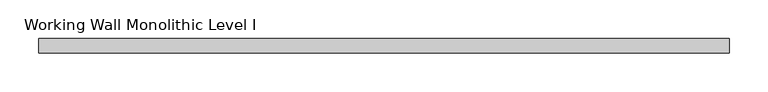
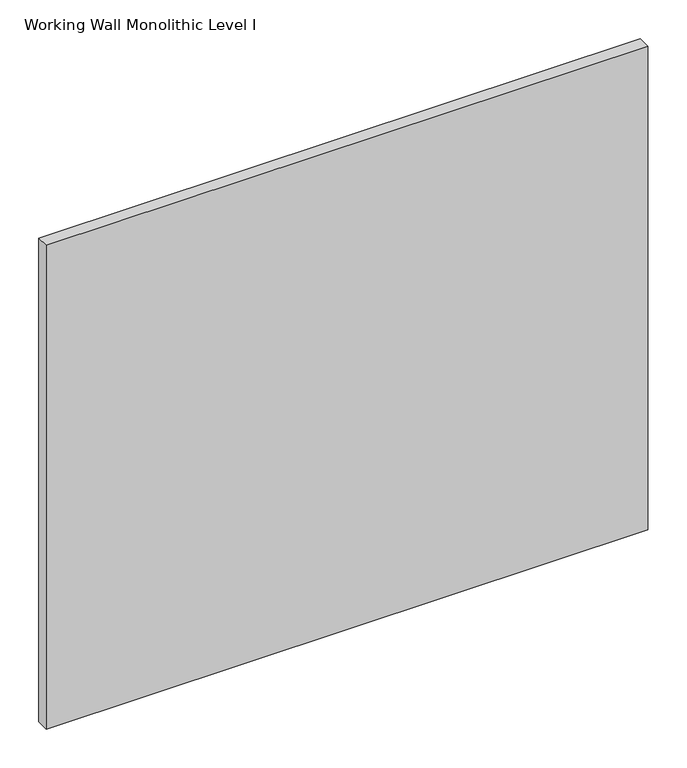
"""IFC4 building model written with IfcOpenShell, lengths in millimetres: proxy geometry, Panel-Fascia-Teknion-Altos : Working Wall Monolithic Level I."""

from ifc_helpers import new_model, si_unit, frame, origin, place, context, project, spatial, polyline, outline, extrude, source, transform, mapped, element, save


def working_wall_monolithic_level_i_40b02bc1(model_context):
    return source(origin(), model_context, "Body", "SweptSolid", [
        extrude(outline(polyline([(447.0356344, 9.525), (447.0356344, -9.525), (-447.0356344, -9.525), (-447.0356344, 9.525), (447.0356344, 9.525)])), frame((0.0, 0.0, 3.175), z_axis=(0.0, 0.0, 1.0), x_axis=(1.0, 0.0, 0.0)), (0.0, 0.0, 1.0), 759.968),
    ])


if __name__ == "__main__":
    model = new_model("IFC4")
    model_context = context("Model", 3, world=origin())
    ifc_project = project(units=[si_unit("LENGTHUNIT", "METRE", prefix="MILLI")], contexts=[model_context])
    site = spatial("IfcSite", under=ifc_project)
    building = spatial("IfcBuilding", under=site)
    placement = place(None, origin())
    working_wall_monolithic_level_i_shape = working_wall_monolithic_level_i_40b02bc1(model_context)
    element("IfcBuildingElementProxy", 1, Name="Panel-Fascia-Teknion-Altos : Working Wall Monolithic Level I", ObjectType="Panel-Fascia-Teknion-Altos : Working Wall Monolithic Level I", at=placement, inside=building, context=model_context, shape_type="MappedRepresentation", body=[
        mapped(working_wall_monolithic_level_i_shape, transform((0.0, 0.0, 0.0), x_axis=(1.0, 0.0, 0.0), y_axis=(0.0, 1.0, 0.0), z_axis=(0.0, 0.0, 1.0))),
    ])
    save(model, "model.ifc")
